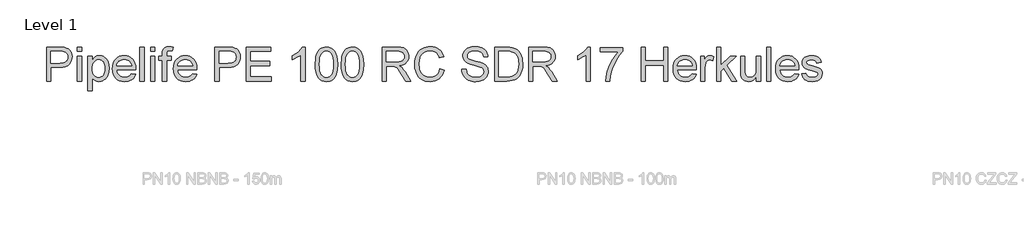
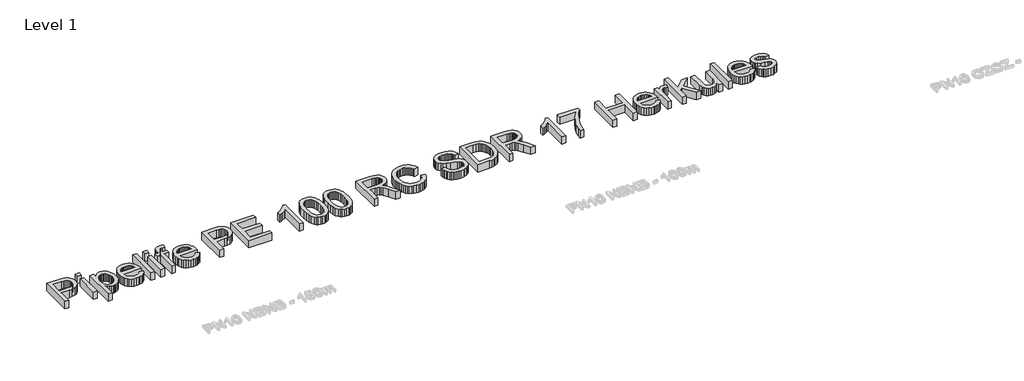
# One storey, part 6 of 17: 1 proxy.
"""IFC4 building model written with IfcOpenShell, lengths in millimetres."""

from ifc_helpers import new_model, si_unit, origin, origin_with_axes, place, context, project, spatial, polyline, outline, extrude, element, save

model = new_model("IFC4")

# Units and contexts
model_context = context("Model", 3, world=origin())
ifc_project = project(units=[si_unit("LENGTHUNIT", "METRE", prefix="MILLI")], contexts=[model_context])

# Site, building, storey
site = spatial("IfcSite", under=ifc_project)
building = spatial("IfcBuilding", under=site)
storey = spatial("IfcBuildingStorey", under=building, Name="Level 1", Elevation=0.0)

# Proxy
placement = place(None, origin())
element("IfcBuildingElementProxy", 1, Name="600mm Arial", ObjectType="600mm Arial", at=placement, inside=storey, context=model_context, shape_type="SweptSolid", body=[
    extrude(outline(polyline([(-16966.7426717, -27009.5373902), (-16966.7426717, -26406.7995293), (-16743.3647242, -26406.7995293), (-16691.3462101, -26408.2342691), (-16653.3072118, -26412.5384884), (-16613.152892, -26423.2622486), (-16580.0986947, -26440.7182492), (-16553.4824324, -26465.6974367), (-16532.6419174, -26498.9907573), (-16519.1774363, -26538.2621602), (-16514.689276, -26581.175595), (-16517.7197039, -26618.1753266), (-16526.8109877, -26652.2136083), (-16541.9631274, -26683.2904398), (-16563.176123, -26711.4058213), (-16592.2985814, -26734.7111457), (-16631.1791098, -26751.357806), (-16679.8177081, -26761.3458021), (-16738.2143763, -26764.6751342), (-16891.4004391, -26764.6751342), (-16891.4004391, -27009.5373902), (-16966.7426717, -27009.5373902)]), holes=[polyline([(-16891.4004391, -26689.3329016), (-16733.7997923, -26689.3329016), (-16697.5634158, -26687.6038562), (-16666.992422, -26682.4167201), (-16642.0868109, -26673.7714932), (-16622.8465826, -26661.6681755), (-16608.4899877, -26646.4286639), (-16598.2352771, -26628.374855), (-16592.0824507, -26607.5067488), (-16590.0315086, -26583.8243453), (-16594.8691569, -26549.9792018), (-16609.3821016, -26521.431559), (-16631.767721, -26499.9472504), (-16660.2233933, -26487.2921098), (-16689.2860709, -26483.4293489), (-16735.5656259, -26482.1417619), (-16891.4004391, -26482.1417619), (-16891.4004391, -26689.3329016)])]), origin_with_axes(), (0.0, 0.0, 1.0), 150.0),
    extrude(outline(polyline([(-16420.5114852, -27009.5373902), (-16420.5114852, -26566.9017736), (-16345.1692526, -26566.9017736), (-16345.1692526, -27009.5373902), (-16420.5114852, -27009.5373902)])), origin_with_axes(), (0.0, 0.0, 1.0), 150.0),
    extrude(outline(polyline([(-16420.5114852, -26482.1417619), (-16420.5114852, -26406.7995293), (-16345.1692526, -26406.7995293), (-16345.1692526, -26482.1417619), (-16420.5114852, -26482.1417619)])), origin_with_axes(), (0.0, 0.0, 1.0), 150.0),
    extrude(outline(polyline([(-16232.1559037, -27179.0574135), (-16232.1559037, -26566.9017736), (-16156.8136711, -26566.9017736), (-16156.8136711, -26640.7724782), (-16132.2391538, -26604.3337666), (-16104.7215806, -26578.3061154), (-16072.6422706, -26562.6895247), (-16034.3825431, -26557.4839945), (-16008.1065716, -26559.3050104), (-15983.4308868, -26564.768058), (-15960.3554886, -26573.8731374), (-15938.8803772, -26586.6202485), (-15919.4746019, -26602.6782976), (-15902.6072124, -26621.7161909), (-15888.2782087, -26643.7339283), (-15876.4875908, -26668.7315098), (-15860.7054532, -26724.2449029), (-15855.4447407, -26784.8350675), (-15861.3860349, -26849.269599), (-15868.8126527, -26878.9346834), (-15879.2099175, -26906.8983135), (-15892.4352753, -26932.429324), (-15908.3461716, -26954.7965493), (-15926.9426064, -26973.9999894), (-15948.2245798, -26990.0396444), (-15971.1482267, -27002.6901865), (-15994.6696817, -27011.726288), (-16018.788945, -27017.1479489), (-16043.5060166, -27018.9551692), (-16078.1421064, -27014.117521), (-16109.0625881, -26999.6045763), (-16135.5316977, -26977.6972035), (-16156.8136711, -26950.6762709), (-16156.8136711, -27179.0574135), (-16232.1559037, -27179.0574135)]), holes=[polyline([(-16156.8136711, -26791.751249), (-16154.7765246, -26828.0612019), (-16148.6650849, -26859.2943833), (-16138.4793522, -26885.4507932), (-16124.2193263, -26906.5304315), (-16107.0530327, -26922.7540275), (-16088.1484967, -26934.3423104), (-16067.5057182, -26941.2952801), (-16045.1246974, -26943.6129366), (-16022.4217797, -26941.2125066), (-16001.4019222, -26934.0112166), (-15982.0651249, -26922.0090665), (-15964.4113876, -26905.2060563), (-15949.7007063, -26883.3630629), (-15939.1930769, -26856.2409628), (-15932.8884992, -26823.8397561), (-15930.7869733, -26786.1594427), (-15932.8379154, -26750.1621895), (-15938.9907418, -26718.9841904), (-15949.2454524, -26692.6254454), (-15963.6020472, -26671.0859546), (-15980.8097276, -26654.3473238), (-15999.6176946, -26642.391159), (-16020.0259482, -26635.2174601), (-16042.0344886, -26632.8262271), (-16063.9740511, -26635.3692114), (-16084.6168295, -26642.9981643), (-16103.962824, -26655.7130857), (-16122.0120344, -26673.5139758), (-16137.2377504, -26696.1617111), (-16148.1132619, -26723.4171684), (-16154.6385688, -26755.2803477), (-16156.8136711, -26791.751249)])]), origin_with_axes(), (0.0, 0.0, 1.0), 150.0),
    extrude(outline(polyline([(-15460.7809362, -26877.6884831), (-15386.9102316, -26887.1062622), (-15398.2363985, -26916.6931716), (-15413.5264939, -26942.766808), (-15432.7805179, -26965.3271714), (-15455.9984703, -26984.3742617), (-15482.9412279, -26999.5034087), (-15513.3696674, -27010.3099424), (-15547.2837889, -27016.7938625), (-15584.6835922, -27018.9551692), (-15631.4321967, -27015.2257655), (-15673.0856356, -27004.0375543), (-15709.6439089, -26985.3905357), (-15741.1070165, -26959.2847096), (-15766.4081008, -26926.446643), (-15784.4803038, -26887.6029029), (-15795.3236256, -26842.7534891), (-15798.9380662, -26791.8984018), (-15795.2868374, -26739.3188677), (-15784.333151, -26692.9749333), (-15766.077007, -26652.8665988), (-15740.5184054, -26618.9938641), (-15709.1380712, -26592.0832961), (-15673.4167294, -26572.8614619), (-15633.3543802, -26561.3283613), (-15588.9510233, -26557.4839945), (-15545.9778078, -26561.3191643), (-15507.1156735, -26572.8246737), (-15472.3646205, -26592.0005227), (-15441.7246489, -26618.8467113), (-15416.7132717, -26652.6458696), (-15398.8480023, -26692.6806277), (-15388.1288407, -26738.9509857), (-15384.5557868, -26791.4569434), (-15384.9972452, -26811.7640296), (-15723.5958336, -26811.7640296), (-15719.2318334, -26841.8291856), (-15710.5544168, -26868.1603394), (-15697.5635839, -26890.757491), (-15680.2593345, -26909.6206403), (-15659.598162, -26924.4922699), (-15636.5365594, -26935.1148625), (-15611.0745268, -26941.4884181), (-15583.2120642, -26943.6129366), (-15543.1129267, -26939.6765993), (-15509.3413596, -26927.8675872), (-15481.8973627, -26907.4501365), (-15460.7809362, -26877.6884831)]), holes=[polyline([(-15723.5958336, -26736.4217969), (-15459.8980194, -26736.4217969), (-15470.0883507, -26696.6169651), (-15478.8531392, -26680.9635862), (-15490.064343, -26668.1428986), (-15510.6105525, -26652.6918548), (-15533.9894533, -26641.655395), (-15560.2010454, -26635.0335191), (-15589.2453289, -26632.8262271), (-15615.7374311, -26634.5874622), (-15640.0314384, -26639.8711673), (-15662.1273507, -26648.6773426), (-15682.0251681, -26661.0059879), (-15698.7224122, -26676.2868863), (-15711.2166044, -26693.9498206), (-15719.5077449, -26713.9947908), (-15723.5958336, -26736.4217969)])]), origin_with_axes(), (0.0, 0.0, 1.0), 150.0),
    extrude(outline(polyline([(-15309.2135542, -27009.5373902), (-15309.2135542, -26406.7995293), (-15233.8713216, -26406.7995293), (-15233.8713216, -27009.5373902), (-15309.2135542, -27009.5373902)])), origin_with_axes(), (0.0, 0.0, 1.0), 150.0),
    extrude(outline(polyline([(-15120.8579727, -26482.1417619), (-15120.8579727, -26406.7995293), (-15045.5157401, -26406.7995293), (-15045.5157401, -26482.1417619), (-15120.8579727, -26482.1417619)])), origin_with_axes(), (0.0, 0.0, 1.0), 150.0),
    extrude(outline(polyline([(-15120.8579727, -27009.5373902), (-15120.8579727, -26566.9017736), (-15045.5157401, -26566.9017736), (-15045.5157401, -27009.5373902), (-15120.8579727, -27009.5373902)])), origin_with_axes(), (0.0, 0.0, 1.0), 150.0),
    extrude(outline(polyline([(-14913.666833, -27009.5373902), (-14913.666833, -26642.2440062), (-14979.5912865, -26642.2440062), (-14979.5912865, -26566.9017736), (-14913.666833, -26566.9017736), (-14913.666833, -26522.3144758), (-14911.6802702, -26485.4159116), (-14905.7205819, -26459.480231), (-14890.5638437, -26434.4274671), (-14867.1665488, -26414.5986276), (-14834.4250512, -26401.6859695), (-14791.235705, -26397.3817502), (-14758.5309956, -26399.4418894), (-14722.5153483, -26405.6223069), (-14733.5518082, -26476.25565), (-14776.9618836, -26472.7239828), (-14805.6014969, -26475.8509798), (-14824.418661, -26485.2319706), (-14834.8481155, -26503.1478238), (-14838.3246004, -26531.8794076), (-14838.3246004, -26566.9017736), (-14753.5645887, -26566.9017736), (-14753.5645887, -26642.2440062), (-14838.3246004, -26642.2440062), (-14838.3246004, -27009.5373902), (-14913.666833, -27009.5373902)])), origin_with_axes(), (0.0, 0.0, 1.0), 150.0),
    extrude(outline(polyline([(-14377.7363424, -26877.6884831), (-14303.8656378, -26887.1062622), (-14315.1918047, -26916.6931716), (-14330.4819001, -26942.766808), (-14349.7359241, -26965.3271714), (-14372.9538765, -26984.3742617), (-14399.8966341, -26999.5034087), (-14430.3250736, -27010.3099424), (-14464.2391951, -27016.7938625), (-14501.6389984, -27018.9551692), (-14548.3876029, -27015.2257655), (-14590.0410418, -27004.0375543), (-14626.5993151, -26985.3905357), (-14658.0624227, -26959.2847096), (-14683.363507, -26926.446643), (-14701.43571, -26887.6029029), (-14712.2790318, -26842.7534891), (-14715.8934724, -26791.8984018), (-14712.2422436, -26739.3188677), (-14701.2885572, -26692.9749333), (-14683.0324132, -26652.8665988), (-14657.4738116, -26618.9938641), (-14626.0934774, -26592.0832961), (-14590.3721356, -26572.8614619), (-14550.3097864, -26561.3283613), (-14505.9064295, -26557.4839945), (-14462.933214, -26561.3191643), (-14424.0710797, -26572.8246737), (-14389.3200267, -26592.0005227), (-14358.6800551, -26618.8467113), (-14333.6686779, -26652.6458696), (-14315.8034085, -26692.6806277), (-14305.0842469, -26738.9509857), (-14301.511193, -26791.4569434), (-14301.9526514, -26811.7640296), (-14640.5512398, -26811.7640296), (-14636.1872396, -26841.8291856), (-14627.509823, -26868.1603394), (-14614.5189901, -26890.757491), (-14597.2147407, -26909.6206403), (-14576.5535682, -26924.4922699), (-14553.4919656, -26935.1148625), (-14528.029933, -26941.4884181), (-14500.1674704, -26943.6129366), (-14460.0683329, -26939.6765993), (-14426.2967658, -26927.8675872), (-14398.8527689, -26907.4501365), (-14377.7363424, -26877.6884831)]), holes=[polyline([(-14640.5512398, -26736.4217969), (-14376.8534256, -26736.4217969), (-14387.0437569, -26696.6169651), (-14395.8085454, -26680.9635862), (-14407.0197492, -26668.1428986), (-14427.5659587, -26652.6918548), (-14450.9448595, -26641.655395), (-14477.1564516, -26635.0335191), (-14506.2007351, -26632.8262271), (-14532.6928373, -26634.5874622), (-14556.9868446, -26639.8711673), (-14579.0827569, -26648.6773426), (-14598.9805743, -26661.0059879), (-14615.6778184, -26676.2868863), (-14628.1720106, -26693.9498206), (-14636.4631511, -26713.9947908), (-14640.5512398, -26736.4217969)])]), origin_with_axes(), (0.0, 0.0, 1.0), 150.0),
    extrude(outline(polyline([(-13981.3067044, -27009.5373902), (-13981.3067044, -26406.7995293), (-13757.928757, -26406.7995293), (-13705.9102428, -26408.2342691), (-13667.8712445, -26412.5384884), (-13627.7169248, -26423.2622486), (-13594.6627275, -26440.7182492), (-13568.0464651, -26465.6974367), (-13547.2059501, -26498.9907573), (-13533.7414691, -26538.2621602), (-13529.2533087, -26581.175595), (-13532.2837367, -26618.1753266), (-13541.3750205, -26652.2136083), (-13556.5271602, -26683.2904398), (-13577.7401557, -26711.4058213), (-13606.8626142, -26734.7111457), (-13645.7431425, -26751.357806), (-13694.3817408, -26761.3458021), (-13752.778409, -26764.6751342), (-13905.9644718, -26764.6751342), (-13905.9644718, -27009.5373902), (-13981.3067044, -27009.5373902)]), holes=[polyline([(-13905.9644718, -26689.3329016), (-13748.3638251, -26689.3329016), (-13712.1274486, -26687.6038562), (-13681.5564548, -26682.4167201), (-13656.6508437, -26673.7714932), (-13637.4106153, -26661.6681755), (-13623.0540205, -26646.4286639), (-13612.7993099, -26628.374855), (-13606.6464835, -26607.5067488), (-13604.5955414, -26583.8243453), (-13609.4331896, -26549.9792018), (-13623.9461343, -26521.431559), (-13646.3317537, -26499.9472504), (-13674.787426, -26487.2921098), (-13703.8501037, -26483.4293489), (-13750.1296587, -26482.1417619), (-13905.9644718, -26482.1417619), (-13905.9644718, -26689.3329016)])]), origin_with_axes(), (0.0, 0.0, 1.0), 150.0),
    extrude(outline(polyline([(-13425.6577389, -27009.5373902), (-13425.6577389, -26406.7995293), (-12992.4399014, -26406.7995293), (-12992.4399014, -26482.1417619), (-13350.3155063, -26482.1417619), (-13350.3155063, -26661.0795643), (-13011.2754595, -26661.0795643), (-13011.2754595, -26736.4217969), (-13350.3155063, -26736.4217969), (-13350.3155063, -26934.1951576), (-12983.0221223, -26934.1951576), (-12983.0221223, -27009.5373902), (-13425.6577389, -27009.5373902)])), origin_with_axes(), (0.0, 0.0, 1.0), 150.0),
    extrude(outline(polyline([(-12380.2842614, -27009.5373902), (-12455.626494, -27009.5373902), (-12455.626494, -26539.8256587), (-12487.0804046, -26565.2646987), (-12526.9956011, -26590.6669505), (-12568.8973603, -26612.8686289), (-12606.3109592, -26628.7059488), (-12606.3109592, -26557.4839945), (-12547.1371403, -26525.2943199), (-12495.8727843, -26486.9978042), (-12455.4609471, -26446.2732674), (-12428.8446848, -26406.7995293), (-12380.2842614, -26406.7995293), (-12380.2842614, -27009.5373902)])), origin_with_axes(), (0.0, 0.0, 1.0), 150.0),
    extrude(outline(polyline([(-12201.346459, -26713.0245021), (-12195.8098349, -26616.5474488), (-12188.8890549, -26575.6343724), (-12179.1999628, -26539.6049295), (-12166.7839455, -26508.1648145), (-12151.6823896, -26481.0197218), (-12133.8952951, -26458.1696514), (-12113.4226621, -26439.6146032), (-12090.1955126, -26425.2580084), (-12064.1448689, -26415.0032978), (-12035.2707308, -26408.8504714), (-12003.5730984, -26406.7995293), (-11957.1463906, -26411.6555716), (-11915.5757251, -26426.2236986), (-11880.8108766, -26449.9336932), (-11854.8016195, -26482.2153383), (-11835.156721, -26522.7927223), (-11819.484948, -26571.3899339), (-11809.2210403, -26633.1021386), (-11805.7997377, -26713.0245021), (-11811.2811795, -26808.9497323), (-11818.1329816, -26849.7248529), (-11827.7255047, -26885.7083106), (-11840.044953, -26917.1622212), (-11855.077531, -26944.3487006), (-11872.8232387, -26967.2677489), (-11893.2820762, -26985.9193661), (-11916.5368168, -27000.37253), (-11942.670234, -27010.6962185), (-11971.6823279, -27016.8904315), (-12003.5730984, -27018.9551692), (-12045.0701874, -27015.3683198), (-12081.8583869, -27004.6077714), (-12113.9376969, -26986.6735242), (-12141.3081173, -26961.565578), (-12167.5748918, -26916.1781368), (-12186.3368736, -26859.6254771), (-12197.5940626, -26791.9075989), (-12201.346459, -26713.0245021)]), holes=[polyline([(-12126.0042263, -26712.8773493), (-12123.7969344, -26778.37414), (-12117.1750585, -26831.390534), (-12106.1385986, -26871.9265313), (-12090.6875548, -26899.982132), (-12071.9991495, -26919.070609), (-12051.2506049, -26932.7052355), (-12028.4419212, -26940.8860113), (-12003.5730984, -26943.6129366), (-11978.7042755, -26940.8768143), (-11955.8955918, -26932.6684473), (-11935.1470472, -26918.9878356), (-11916.4586419, -26899.8349792), (-11901.0075981, -26871.7333933), (-11889.9711382, -26831.206593), (-11883.3492623, -26778.2545783), (-11881.1419704, -26712.8773493), (-11883.2756859, -26649.1142024), (-11889.6768326, -26597.031309), (-11900.3454105, -26556.6286689), (-11915.2814195, -26527.9062821), (-11933.6571252, -26507.8843045), (-11954.644793, -26493.5828919), (-11978.244423, -26485.0020444), (-12004.4560151, -26482.1417619), (-12029.1960793, -26484.6617535), (-12051.6184869, -26492.2217286), (-12071.723238, -26504.8216869), (-12089.5103324, -26522.4616286), (-12105.476411, -26553.7315981), (-12116.8807529, -26595.8908748), (-12123.723358, -26648.9394585), (-12126.0042263, -26712.8773493)])]), origin_with_axes(), (0.0, 0.0, 1.0), 150.0),
    extrude(outline(polyline([(-11739.8752842, -26713.0245021), (-11734.3386602, -26616.5474488), (-11727.4178801, -26575.6343724), (-11717.7287881, -26539.6049295), (-11705.3127708, -26508.1648145), (-11690.2112149, -26481.0197218), (-11672.4241204, -26458.1696514), (-11651.9514874, -26439.6146032), (-11628.7243379, -26425.2580084), (-11602.6736941, -26415.0032978), (-11573.799556, -26408.8504714), (-11542.1019236, -26406.7995293), (-11495.6752158, -26411.6555716), (-11454.1045504, -26426.2236986), (-11419.3397018, -26449.9336932), (-11393.3304448, -26482.2153383), (-11373.6855462, -26522.7927223), (-11358.0137732, -26571.3899339), (-11347.7498655, -26633.1021386), (-11344.328563, -26713.0245021), (-11349.8100047, -26808.9497323), (-11356.6618069, -26849.7248529), (-11366.2543299, -26885.7083106), (-11378.5737782, -26917.1622212), (-11393.6063562, -26944.3487006), (-11411.352064, -26967.2677489), (-11431.8109014, -26985.9193661), (-11455.0656421, -27000.37253), (-11481.1990593, -27010.6962185), (-11510.2111531, -27016.8904315), (-11542.1019236, -27018.9551692), (-11583.5990127, -27015.3683198), (-11620.3872122, -27004.6077714), (-11652.4665222, -26986.6735242), (-11679.8369426, -26961.565578), (-11706.1037171, -26916.1781368), (-11724.8656988, -26859.6254771), (-11736.1228879, -26791.9075989), (-11739.8752842, -26713.0245021)]), holes=[polyline([(-11664.5330516, -26712.8773493), (-11662.3257596, -26778.37414), (-11655.7038837, -26831.390534), (-11644.6674239, -26871.9265313), (-11629.2163801, -26899.982132), (-11610.5279747, -26919.070609), (-11589.7794302, -26932.7052355), (-11566.9707465, -26940.8860113), (-11542.1019236, -26943.6129366), (-11517.2331007, -26940.8768143), (-11494.424417, -26932.6684473), (-11473.6758725, -26918.9878356), (-11454.9874671, -26899.8349792), (-11439.5364233, -26871.7333933), (-11428.4999635, -26831.206593), (-11421.8780876, -26778.2545783), (-11419.6707956, -26712.8773493), (-11421.8045112, -26649.1142024), (-11428.2056579, -26597.031309), (-11438.8742358, -26556.6286689), (-11453.8102448, -26527.9062821), (-11472.1859504, -26507.8843045), (-11493.1736182, -26493.5828919), (-11516.7732482, -26485.0020444), (-11542.9848404, -26482.1417619), (-11567.7249046, -26484.6617535), (-11590.1473122, -26492.2217286), (-11610.2520632, -26504.8216869), (-11628.0391577, -26522.4616286), (-11644.0052363, -26553.7315981), (-11655.4095781, -26595.8908748), (-11662.2521832, -26648.9394585), (-11664.5330516, -26712.8773493)])]), origin_with_axes(), (0.0, 0.0, 1.0), 150.0),
    extrude(outline(polyline([(-11014.7062953, -27009.5373902), (-11014.7062953, -26406.7995293), (-10754.9816067, -26406.7995293), (-10685.1759981, -26410.8646253), (-10634.3898887, -26423.0599135), (-10614.7909754, -26432.753604), (-10597.2705954, -26445.5742916), (-10581.8287486, -26461.5219761), (-10568.4654352, -26480.5966575), (-10557.6818942, -26501.7728649), (-10549.9793649, -26524.025127), (-10545.3578473, -26547.3534441), (-10543.8173415, -26571.7578159), (-10546.3695228, -26602.7150858), (-10554.0260669, -26631.1339699), (-10566.7869736, -26657.0144683), (-10584.652243, -26680.3565809), (-10607.8518013, -26700.4153467), (-10636.6155748, -26716.4458046), (-10670.9435634, -26728.4479547), (-10710.8357673, -26736.4217969), (-10686.0037326, -26752.6453929), (-10668.0143031, -26768.6482597), (-10637.1490037, -26805.2525182), (-10606.9458919, -26846.1977843), (-10506.4405308, -27009.5373902), (-10593.9964456, -27009.5373902), (-10672.428887, -26884.6046646), (-10729.0827143, -26801.9047921), (-10750.1439585, -26777.7901273), (-10768.8875461, -26762.8357242), (-10804.7192525, -26748.4883264), (-10848.4236335, -26745.839576), (-10939.3640627, -26745.839576), (-10939.3640627, -27009.5373902), (-11014.7062953, -27009.5373902)]), holes=[polyline([(-10939.3640627, -26670.4973434), (-10770.7269561, -26670.4973434), (-10722.2952914, -26667.8301989), (-10684.7161456, -26659.8287656), (-10656.4260202, -26645.9596143), (-10635.8614167, -26625.6893164), (-10623.3350347, -26601.1699814), (-10619.1595741, -26574.5537191), (-10621.1507354, -26555.2858996), (-10627.1242193, -26537.8023078), (-10637.0800258, -26522.1029436), (-10651.0181549, -26508.1878071), (-10669.2605033, -26496.7926623), (-10692.1289678, -26488.6532732), (-10719.6235485, -26483.7696397), (-10751.7442452, -26482.1417619), (-10939.3640627, -26482.1417619), (-10939.3640627, -26670.4973434)])]), origin_with_axes(), (0.0, 0.0, 1.0), 150.0),
    extrude(outline(polyline([(-9988.168376, -26795.2829162), (-9912.8261434, -26814.7070855), (-9927.7345612, -26861.5614561), (-9947.5909919, -26902.5021237), (-9972.3954354, -26937.5290881), (-10002.1478918, -26966.6423495), (-10036.1769763, -26989.5292082), (-10073.8113045, -27005.8769643), (-10115.0508761, -27015.685618), (-10159.8956913, -27018.9551692), (-10205.839554, -27016.4811628), (-10247.2860593, -27009.0591436), (-10284.2352072, -26996.6891115), (-10316.6869977, -26979.3710666), (-10345.0874877, -26957.3625262), (-10369.8827342, -26930.9210078), (-10391.0727371, -26900.0465114), (-10408.6574965, -26864.7390369), (-10422.4668669, -26826.5252946), (-10432.3307029, -26786.9319949), (-10438.2490044, -26745.9591377), (-10440.2217716, -26703.606723), (-10437.9914871, -26658.1640995), (-10431.3006333, -26615.7197143), (-10420.1492103, -26576.2735674), (-10404.5372181, -26539.8256587), (-10384.8141446, -26506.9783951), (-10361.3294778, -26478.3341832), (-10334.0832175, -26453.8930232), (-10303.0753638, -26433.6549149), (-10269.358979, -26417.7854054), (-10233.9871252, -26406.4500414), (-10196.9598023, -26399.648823), (-10158.2770105, -26397.3817502), (-10115.1842333, -26400.3156091), (-10075.6691085, -26409.1171858), (-10039.7316361, -26423.7864804), (-10007.3718161, -26444.3234928), (-9979.1230774, -26470.185597), (-9955.5188489, -26500.8301672), (-9936.5591306, -26536.2572034), (-9922.2439224, -26576.4667054), (-9997.5861551, -26594.4193468), (-10009.4503494, -26564.7910506), (-10023.7057767, -26539.4761708), (-10040.352437, -26518.4747074), (-10059.3903302, -26501.7866604), (-10080.9298211, -26489.071739), (-10105.081274, -26479.9896522), (-10131.8446892, -26474.5404002), (-10161.2200665, -26472.7239828), (-10195.0192248, -26474.7381367), (-10225.9305095, -26480.7805985), (-10253.9539204, -26490.8513681), (-10279.0894578, -26504.9504456), (-10301.0198232, -26522.4432345), (-10319.4277185, -26542.6951383), (-10334.3131438, -26565.7061571), (-10345.6760989, -26591.4762908), (-10360.078679, -26646.6218019), (-10364.879539, -26703.4595702), (-10359.1957622, -26773.0628437), (-10352.0910412, -26804.3328133), (-10342.1444317, -26833.2483381), (-10329.1949855, -26859.2346025), (-10313.0817541, -26881.7167909), (-10293.8047376, -26900.6949034), (-10271.3639359, -26916.1689398), (-10246.8491994, -26928.1756884), (-10221.3503786, -26936.7519374), (-10194.8674735, -26941.8976868), (-10167.400484, -26943.6129366), (-10134.6451909, -26941.276886), (-10104.5110569, -26934.268734), (-10076.9980822, -26922.5884806), (-10052.1062667, -26906.2361259), (-10030.4242216, -26885.2852463), (-10012.5405582, -26859.8094181), (-9998.4552763, -26829.8086414), (-9988.168376, -26795.2829162)])), origin_with_axes(), (0.0, 0.0, 1.0), 150.0),
    extrude(outline(polyline([(-9602.0394338, -26802.3462505), (-9526.6972012, -26802.3462505), (-9518.0519743, -26844.1560392), (-9502.4169895, -26877.7620595), (-9478.0264133, -26904.4335041), (-9443.1144119, -26925.4395661), (-9400.4401005, -26939.069594), (-9352.7625939, -26943.6129366), (-9310.7872583, -26940.17324), (-9274.0358469, -26929.85415), (-9244.2557994, -26913.5201894), (-9223.1945552, -26892.0358809), (-9210.6681733, -26867.3693931), (-9206.4927126, -26841.4888948), (-9209.6197096, -26816.270584), (-9219.0007005, -26794.4735758), (-9238.0569878, -26775.8771409), (-9270.2098742, -26760.2605502), (-9379.9122851, -26731.4921782), (-9451.9251857, -26712.454285), (-9498.0024056, -26694.3360967), (-9535.507975, -26668.9890272), (-9562.0874492, -26638.2708806), (-9577.9247691, -26602.8438445), (-9583.2038757, -26563.3701064), (-9581.5713993, -26540.9339032), (-9576.6739703, -26519.2426611), (-9568.5115885, -26498.29638), (-9557.084254, -26478.0950599), (-9542.5207255, -26459.4618369), (-9524.9497617, -26443.2198468), (-9504.3713626, -26429.3690897), (-9480.7855282, -26417.9095655), (-9427.7737327, -26402.513704), (-9369.0965545, -26397.3817502), (-9305.5265457, -26402.7528273), (-9249.9027881, -26418.8660587), (-9225.5673941, -26430.8682088), (-9204.2118443, -26445.3903506), (-9185.8361386, -26462.432484), (-9170.4402771, -26481.9946091), (-9158.1438214, -26503.5065088), (-9149.0663332, -26526.3979659), (-9143.2078124, -26550.6689805), (-9140.5682591, -26576.3195526), (-9215.9104917, -26576.3195526), (-9220.950475, -26552.2784643), (-9229.7428547, -26531.3643728), (-9242.2876308, -26513.5772784), (-9258.5848031, -26498.9171809), (-9278.9378745, -26487.4576567), (-9303.6503475, -26479.2722823), (-9332.7222222, -26474.3610577), (-9366.1534985, -26472.7239828), (-9400.6516326, -26474.3426636), (-9430.1281775, -26479.1987059), (-9454.5831331, -26487.2921098), (-9474.0164995, -26498.6228753), (-9488.8237498, -26512.2437061), (-9499.4003572, -26527.2073063), (-9505.7463216, -26543.5136757), (-9507.8616431, -26561.1628144), (-9506.3625239, -26576.3471438), (-9501.8651666, -26590.1151275), (-9494.3695709, -26602.4667655), (-9483.875737, -26613.4020578), (-9467.3578354, -26623.7579359), (-9441.3485783, -26634.2241787), (-9360.8559978, -26655.487758), (-9277.7882433, -26675.6844795), (-9227.5355627, -26693.3060271), (-9184.5853398, -26720.6396594), (-9167.9800663, -26736.7069055), (-9154.6213513, -26754.3744383), (-9144.3528451, -26773.5502873), (-9137.0181978, -26794.142482), (-9131.15048, -26839.5759084), (-9132.8381387, -26863.1433487), (-9137.9011146, -26886.0210103), (-9146.3394079, -26908.2088931), (-9158.1530185, -26929.7069972), (-9173.1350127, -26949.6829896), (-9191.078457, -26967.3045371), (-9211.9833514, -26982.5716399), (-9235.8496958, -26995.484298), (-9261.9831131, -27005.7528041), (-9289.6892258, -27013.0874514), (-9349.8195379, -27018.9551692), (-9388.3597755, -27017.3732767), (-9423.6350603, -27012.6275989), (-9455.6453924, -27004.718136), (-9484.3907718, -26993.644888), (-9510.0459424, -26979.3894607), (-9532.7856482, -26961.93346), (-9552.6098893, -26941.276886), (-9569.5186655, -26917.4197386), (-9583.1394963, -26891.13457), (-9593.0999014, -26863.1939325), (-9599.3998805, -26833.597826), (-9602.0394338, -26802.3462505)])), origin_with_axes(), (0.0, 0.0, 1.0), 150.0),
    extrude(outline(polyline([(-9018.1371311, -27009.5373902), (-9018.1371311, -26406.7995293), (-8810.2102274, -26406.7995293), (-8748.0749584, -26408.970033), (-8702.641532, -26415.4815444), (-8654.5961435, -26432.2201751), (-8614.0555476, -26458.5973142), (-8591.7159134, -26480.1551991), (-8572.3745175, -26504.5089872), (-8556.0313599, -26531.6586784), (-8542.6864405, -26561.6042728), (-8532.3213653, -26594.0698589), (-8524.9177402, -26628.7795252), (-8518.99484, -26704.9310982), (-8523.0047538, -26769.623147), (-8535.034495, -26826.5528858), (-8553.3550184, -26875.0213386), (-8576.2372785, -26914.3295298), (-8602.5776293, -26945.3603761), (-8631.272425, -26968.9967943), (-8664.2162576, -26986.5263714), (-8703.3037196, -26999.2366943), (-8748.6083873, -27006.9622162), (-8800.2038371, -27009.5373902), (-9018.1371311, -27009.5373902)]), holes=[polyline([(-8942.7948985, -26934.1951576), (-8809.4744634, -26934.1951576), (-8754.3289524, -26931.4728308), (-8712.5007695, -26923.3058505), (-8680.9364943, -26910.1724633), (-8656.5827062, -26892.5509157), (-8630.4079023, -26859.9381768), (-8610.7446096, -26817.7237179), (-8598.4389569, -26765.7235979), (-8594.3370726, -26703.7538758), (-8596.346628, -26660.0127066), (-8602.3752942, -26621.6426145), (-8612.4230712, -26588.6435995), (-8626.489959, -26561.0156616), (-8643.4355234, -26538.1334015), (-8662.1193303, -26519.3714198), (-8682.5413795, -26504.7297164), (-8704.7016712, -26494.2082913), (-8748.0381702, -26485.1583942), (-8811.5346026, -26482.1417619), (-8942.7948985, -26482.1417619), (-8942.7948985, -26934.1951576)])]), origin_with_axes(), (0.0, 0.0, 1.0), 150.0),
    extrude(outline(polyline([(-8415.3992702, -27009.5373902), (-8415.3992702, -26406.7995293), (-8155.6745816, -26406.7995293), (-8085.868973, -26410.8646253), (-8035.0828636, -26423.0599135), (-8015.4839503, -26432.753604), (-7997.9635703, -26445.5742916), (-7982.5217235, -26461.5219761), (-7969.15841, -26480.5966575), (-7958.3748691, -26501.7728649), (-7950.6723398, -26524.025127), (-7946.0508222, -26547.3534441), (-7944.5103164, -26571.7578159), (-7947.0624977, -26602.7150858), (-7954.7190417, -26631.1339699), (-7967.4799484, -26657.0144683), (-7985.3452178, -26680.3565809), (-8008.5447762, -26700.4153467), (-8037.3085497, -26716.4458046), (-8071.6365383, -26728.4479547), (-8111.5287422, -26736.4217969), (-8086.6967075, -26752.6453929), (-8068.7072779, -26768.6482597), (-8037.8419785, -26805.2525182), (-8007.6388667, -26846.1977843), (-7907.1335057, -27009.5373902), (-7994.6894205, -27009.5373902), (-8073.1218619, -26884.6046646), (-8129.7756891, -26801.9047921), (-8150.8369334, -26777.7901273), (-8169.580521, -26762.8357242), (-8205.4122273, -26748.4883264), (-8249.1166084, -26745.839576), (-8340.0570376, -26745.839576), (-8340.0570376, -27009.5373902), (-8415.3992702, -27009.5373902)]), holes=[polyline([(-8340.0570376, -26670.4973434), (-8171.419931, -26670.4973434), (-8122.9882663, -26667.8301989), (-8085.4091205, -26659.8287656), (-8057.1189951, -26645.9596143), (-8036.5543916, -26625.6893164), (-8024.0280096, -26601.1699814), (-8019.852549, -26574.5537191), (-8021.8437103, -26555.2858996), (-8027.8171942, -26537.8023078), (-8037.7730007, -26522.1029436), (-8051.7111298, -26508.1878071), (-8069.9534782, -26496.7926623), (-8092.8219427, -26488.6532732), (-8120.3165233, -26483.7696397), (-8152.43722, -26482.1417619), (-8340.0570376, -26482.1417619), (-8340.0570376, -26670.4973434)])]), origin_with_axes(), (0.0, 0.0, 1.0), 150.0),
    extrude(outline(polyline([(-7322.9368973, -27009.5373902), (-7398.2791299, -27009.5373902), (-7398.2791299, -26539.8256587), (-7429.7330405, -26565.2646987), (-7469.648237, -26590.6669505), (-7511.5499962, -26612.8686289), (-7548.9635952, -26628.7059488), (-7548.9635952, -26557.4839945), (-7489.7897762, -26525.2943199), (-7438.5254202, -26486.9978042), (-7398.113583, -26446.2732674), (-7371.4973207, -26406.7995293), (-7322.9368973, -26406.7995293), (-7322.9368973, -27009.5373902)])), origin_with_axes(), (0.0, 0.0, 1.0), 150.0),
    extrude(outline(polyline([(-7143.9990949, -26491.559541), (-7143.9990949, -26416.2173083), (-6748.4523736, -26416.2173083), (-6748.4523736, -26477.1385667), (-6804.8302894, -26548.4892797), (-6860.6563822, -26639.2273738), (-6909.8973872, -26741.0755042), (-6929.7860076, -26793.0618286), (-6946.5200399, -26845.7563259), (-6964.4726812, -26924.0784027), (-6974.4790715, -27009.5373902), (-7049.8213041, -27009.5373902), (-7041.6727179, -26931.877501), (-7019.8757097, -26839.5759084), (-7004.0062001, -26790.2107432), (-6985.0188906, -26741.7376918), (-6962.9137813, -26694.1567542), (-6937.690872, -26647.4679305), (-6882.4349963, -26562.2480663), (-6823.7946063, -26491.559541), (-7143.9990949, -26491.559541)])), origin_with_axes(), (0.0, 0.0, 1.0), 150.0),
    extrude(outline(polyline([(-6418.830106, -27009.5373902), (-6418.830106, -26406.7995293), (-6343.4878734, -26406.7995293), (-6343.4878734, -26651.6617853), (-6023.2833848, -26651.6617853), (-6023.2833848, -26406.7995293), (-5947.9411521, -26406.7995293), (-5947.9411521, -27009.5373902), (-6023.2833848, -27009.5373902), (-6023.2833848, -26727.0040179), (-6343.4878734, -26727.0040179), (-6343.4878734, -27009.5373902), (-6418.830106, -27009.5373902)])), origin_with_axes(), (0.0, 0.0, 1.0), 150.0),
    extrude(outline(polyline([(-5515.6062314, -26877.6884831), (-5441.7355268, -26887.1062622), (-5453.0616937, -26916.6931716), (-5468.3517891, -26942.766808), (-5487.6058131, -26965.3271714), (-5510.8237655, -26984.3742617), (-5537.7665231, -26999.5034087), (-5568.1949626, -27010.3099424), (-5602.1090841, -27016.7938625), (-5639.5088874, -27018.9551692), (-5686.2574919, -27015.2257655), (-5727.9109308, -27004.0375543), (-5764.4692041, -26985.3905357), (-5795.9323117, -26959.2847096), (-5821.233396, -26926.446643), (-5839.305599, -26887.6029029), (-5850.1489208, -26842.7534891), (-5853.7633614, -26791.8984018), (-5850.1121326, -26739.3188677), (-5839.1584462, -26692.9749333), (-5820.9023022, -26652.8665988), (-5795.3437005, -26618.9938641), (-5763.9633664, -26592.0832961), (-5728.2420246, -26572.8614619), (-5688.1796754, -26561.3283613), (-5643.7763185, -26557.4839945), (-5600.803103, -26561.3191643), (-5561.9409687, -26572.8246737), (-5527.1899157, -26592.0005227), (-5496.5499441, -26618.8467113), (-5471.5385669, -26652.6458696), (-5453.6732975, -26692.6806277), (-5442.9541359, -26738.9509857), (-5439.381082, -26791.4569434), (-5439.8225404, -26811.7640296), (-5778.4211288, -26811.7640296), (-5774.0571286, -26841.8291856), (-5765.379712, -26868.1603394), (-5752.3888791, -26890.757491), (-5735.0846297, -26909.6206403), (-5714.4234572, -26924.4922699), (-5691.3618546, -26935.1148625), (-5665.899822, -26941.4884181), (-5638.0373594, -26943.6129366), (-5597.9382219, -26939.6765993), (-5564.1666548, -26927.8675872), (-5536.7226579, -26907.4501365), (-5515.6062314, -26877.6884831)]), holes=[polyline([(-5778.4211288, -26736.4217969), (-5514.7233146, -26736.4217969), (-5524.9136459, -26696.6169651), (-5533.6784344, -26680.9635862), (-5544.8896382, -26668.1428986), (-5565.4358477, -26652.6918548), (-5588.8147485, -26641.655395), (-5615.0263406, -26635.0335191), (-5644.0706241, -26632.8262271), (-5670.5627263, -26634.5874622), (-5694.8567336, -26639.8711673), (-5716.9526459, -26648.6773426), (-5736.8504633, -26661.0059879), (-5753.5477074, -26676.2868863), (-5766.0418996, -26693.9498206), (-5774.3330401, -26713.9947908), (-5778.4211288, -26736.4217969)])]), origin_with_axes(), (0.0, 0.0, 1.0), 150.0),
    extrude(outline(polyline([(-5364.0388494, -27009.5373902), (-5364.0388494, -26566.9017736), (-5298.1143959, -26566.9017736), (-5298.1143959, -26632.3847687), (-5273.7606078, -26594.4193468), (-5251.3198061, -26572.0521215), (-5228.805428, -26561.1260262), (-5204.2309107, -26557.4839945), (-5166.7069472, -26563.29653), (-5128.5943725, -26580.7341366), (-5153.757501, -26648.2772709), (-5180.2450046, -26636.6889881), (-5206.7325083, -26632.8262271), (-5229.2284923, -26636.5418353), (-5249.3332433, -26647.6886597), (-5265.5752334, -26665.4205719), (-5276.4829345, -26688.8914432), (-5285.6431962, -26730.9771434), (-5288.6966168, -26776.8888164), (-5288.6966168, -27009.5373902), (-5364.0388494, -27009.5373902)])), origin_with_axes(), (0.0, 0.0, 1.0), 150.0),
    extrude(outline(polyline([(-5081.5054771, -27009.5373902), (-5081.5054771, -26406.7995293), (-5006.1632445, -26406.7995293), (-5006.1632445, -26730.6828378), (-4837.2318323, -26566.9017736), (-4733.0476513, -26566.9017736), (-4904.0392026, -26732.742977), (-4723.6298722, -27009.5373902), (-4811.6272454, -27009.5373902), (-4958.0442795, -26785.1293731), (-5006.1632445, -26831.7768101), (-5006.1632445, -27009.5373902), (-5081.5054771, -27009.5373902)])), origin_with_axes(), (0.0, 0.0, 1.0), 150.0),
    extrude(outline(polyline([(-4375.1720464, -27009.5373902), (-4375.1720464, -26933.4593936), (-4402.4321022, -26970.8637954), (-4434.1803184, -26997.5812253), (-4470.4166949, -27013.6116833), (-4511.1412318, -27018.9551692), (-4547.8374608, -27015.2027729), (-4581.9953041, -27003.9455838), (-4610.6533115, -26987.0230121), (-4630.850033, -26966.2744675), (-4644.4432727, -26941.0745509), (-4653.2908347, -26910.7978627), (-4657.7054187, -26840.7531308), (-4657.7054187, -26566.9017736), (-4582.363186, -26566.9017736), (-4582.363186, -26805.2893064), (-4581.2227519, -26852.966813), (-4577.8014493, -26882.103067), (-4566.8201718, -26907.726048), (-4548.0030077, -26927.2053996), (-4522.6007559, -26939.5110524), (-4491.8642152, -26943.6129366), (-4459.361841, -26939.4190819), (-4428.9563941, -26926.8375177), (-4403.8852361, -26907.0270722), (-4387.3857286, -26881.1465739), (-4378.2254669, -26845.7011436), (-4375.1720464, -26797.1959026), (-4375.1720464, -26566.9017736), (-4299.8298138, -26566.9017736), (-4299.8298138, -27009.5373902), (-4375.1720464, -27009.5373902)])), origin_with_axes(), (0.0, 0.0, 1.0), 150.0),
    extrude(outline(polyline([(-4196.2342439, -27009.5373902), (-4196.2342439, -26406.7995293), (-4120.8920113, -26406.7995293), (-4120.8920113, -27009.5373902), (-4196.2342439, -27009.5373902)])), origin_with_axes(), (0.0, 0.0, 1.0), 150.0),
    extrude(outline(polyline([(-3697.9748696, -26877.6884831), (-3624.104165, -26887.1062622), (-3635.4303319, -26916.6931716), (-3650.7204274, -26942.766808), (-3669.9744513, -26965.3271714), (-3693.1924037, -26984.3742617), (-3720.1351613, -26999.5034087), (-3750.5636009, -27010.3099424), (-3784.4777223, -27016.7938625), (-3821.8775256, -27018.9551692), (-3868.6261302, -27015.2257655), (-3910.2795691, -27004.0375543), (-3946.8378423, -26985.3905357), (-3978.30095, -26959.2847096), (-4003.6020342, -26926.446643), (-4021.6742372, -26887.6029029), (-4032.517559, -26842.7534891), (-4036.1319996, -26791.8984018), (-4032.4807708, -26739.3188677), (-4021.5270844, -26692.9749333), (-4003.2709404, -26652.8665988), (-3977.7123388, -26618.9938641), (-3946.3320046, -26592.0832961), (-3910.6106629, -26572.8614619), (-3870.5483136, -26561.3283613), (-3826.1449568, -26557.4839945), (-3783.1717412, -26561.3191643), (-3744.3096069, -26572.8246737), (-3709.558554, -26592.0005227), (-3678.9185823, -26618.8467113), (-3653.9072051, -26652.6458696), (-3636.0419358, -26692.6806277), (-3625.3227741, -26738.9509857), (-3621.7497202, -26791.4569434), (-3622.1911786, -26811.7640296), (-3960.789767, -26811.7640296), (-3956.4257668, -26841.8291856), (-3947.7483503, -26868.1603394), (-3934.7575173, -26890.757491), (-3917.453268, -26909.6206403), (-3896.7920954, -26924.4922699), (-3873.7304928, -26935.1148625), (-3848.2684602, -26941.4884181), (-3820.4059976, -26943.6129366), (-3780.3068602, -26939.6765993), (-3746.535293, -26927.8675872), (-3719.0912962, -26907.4501365), (-3697.9748696, -26877.6884831)]), holes=[polyline([(-3960.789767, -26736.4217969), (-3697.0919529, -26736.4217969), (-3707.2822841, -26696.6169651), (-3716.0470727, -26680.9635862), (-3727.2582765, -26668.1428986), (-3747.8044859, -26652.6918548), (-3771.1833867, -26641.655395), (-3797.3949788, -26635.0335191), (-3826.4392624, -26632.8262271), (-3852.9313645, -26634.5874622), (-3877.2253718, -26639.8711673), (-3899.3212841, -26648.6773426), (-3919.2191015, -26661.0059879), (-3935.9163456, -26676.2868863), (-3948.4105379, -26693.9498206), (-3956.7016783, -26713.9947908), (-3960.789767, -26736.4217969)])]), origin_with_axes(), (0.0, 0.0, 1.0), 150.0),
    extrude(outline(polyline([(-3574.6608249, -26877.6884831), (-3499.3185922, -26868.270704), (-3494.7660526, -26885.4507932), (-3487.4360038, -26900.4971668), (-3477.328446, -26913.4098248), (-3464.4433791, -26924.1887673), (-3448.744015, -26932.6868414), (-3430.1935654, -26938.7568943), (-3384.5394098, -26943.6129366), (-3339.4370771, -26939.1615645), (-3321.9075001, -26933.5973493), (-3307.7256492, -26925.8074481), (-3288.9636674, -26906.4568551), (-3284.273172, -26895.6227304), (-3282.7096735, -26884.0160534), (-3284.282369, -26873.8441162), (-3289.0004556, -26864.8126133), (-3307.872802, -26850.1709099), (-3336.089351, -26840.605978), (-3385.4223265, -26828.6866013), (-3454.1794714, -26808.8025795), (-3498.8771339, -26791.8248254), (-3527.5903236, -26773.301967), (-3548.3940504, -26748.782632), (-3561.0307969, -26719.830319), (-3565.2430458, -26688.0085264), (-3561.8585314, -26658.8170901), (-3551.7049884, -26631.8697339), (-3535.7021216, -26608.2333157), (-3514.769636, -26588.9746933), (-3493.9659092, -26576.8529815), (-3466.8714003, -26566.6810444), (-3435.5462484, -26559.783257), (-3402.0505927, -26557.4839945), (-3353.0119228, -26561.1812085), (-3310.3743995, -26572.2728507), (-3276.0877976, -26589.6736691), (-3252.1018915, -26612.2984118), (-3236.2093893, -26641.8209419), (-3226.202999, -26679.9151225), (-3301.5452316, -26689.3329016), (-3311.0549812, -26665.622907), (-3329.8721453, -26647.7622361), (-3358.1806648, -26636.5602294), (-3396.1644808, -26632.8262271), (-3439.4274034, -26636.3946825), (-3468.2693519, -26647.1000485), (-3484.4929478, -26662.5510923), (-3489.9008132, -26680.3565809), (-3487.656733, -26691.9448637), (-3480.9244925, -26702.2823478), (-3469.409786, -26711.5161859), (-3452.8183081, -26718.910614), (-3387.9239241, -26734.950269), (-3277.3385964, -26770.4140933), (-3248.1287659, -26787.3734533), (-3225.9822698, -26810.5868072), (-3212.0211481, -26840.1277314), (-3207.3674409, -26876.0698023), (-3212.8304885, -26913.2258838), (-3229.2196314, -26948.1746734), (-3255.9094701, -26978.1754501), (-3292.2746054, -27000.4874931), (-3336.1997156, -27014.3382502), (-3385.5694793, -27018.9551692), (-3426.1192723, -27016.7294832), (-3461.5371113, -27010.052425), (-3491.8229966, -26998.9239946), (-3516.976928, -26983.3441921), (-3537.5231374, -26963.3865939), (-3553.9858567, -26939.1247763), (-3566.3650859, -26910.5587394), (-3574.6608249, -26877.6884831)])), origin_with_axes(), (0.0, 0.0, 1.0), 150.0),
])

save(model, "model.ifc")
